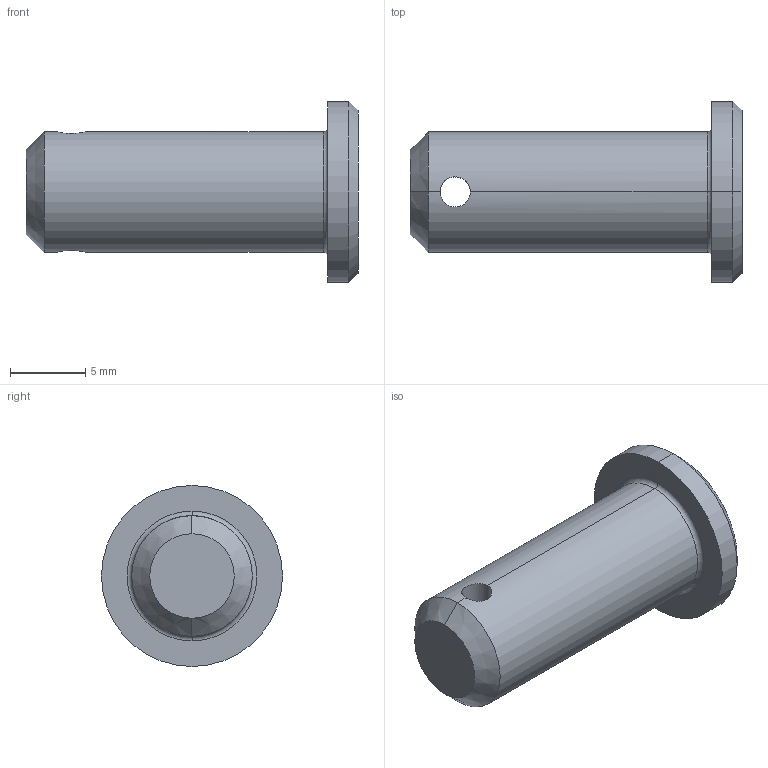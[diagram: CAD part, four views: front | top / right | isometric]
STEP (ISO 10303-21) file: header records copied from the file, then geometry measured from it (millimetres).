
FILE_DESCRIPTION (( 'STEP AP203' ), '1' );
FILE_NAME ('Wiberger-sms2360_8x20.step', '2012-10-09T08:58:45', ( 'Magnus' ), ( 'Wiberger' ), 'SwSTEP 2.0', 'SolidWorks 2011', '' );
FILE_SCHEMA (( 'CONFIG_CONTROL_DESIGN' ));
Length unit declared in the file: millimetre
Products named in the file (1): Wiberger-sms2360_8x20
Bounding box: 22 x 12 x 12 mm (x, y, z)
Volume: 1184.2 mm3; surface area: 810.9 mm2
Topology: 1 solids, 1 shells, 15 faces, 32 edges, 18 vertices
Faces by surface type: cylinder 6, cone 4, plane 3, torus 2
Entity records: 543 total; most frequent: CARTESIAN_POINT 134, DIRECTION 76, ORIENTED_EDGE 64, AXIS2_PLACEMENT_3D 32, EDGE_CURVE 32, VERTEX_POINT 18, CIRCLE 16, EDGE_LOOP 16
